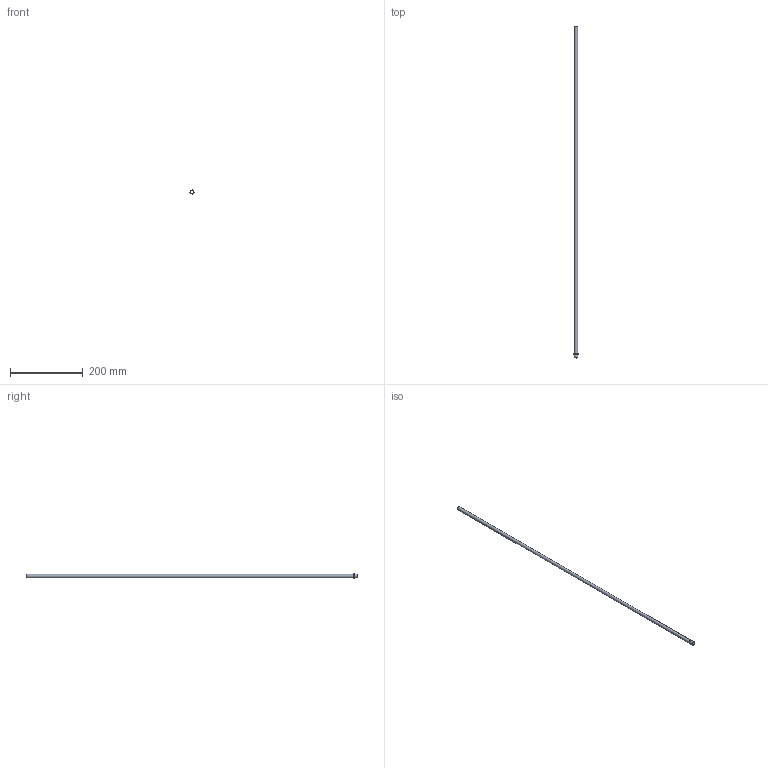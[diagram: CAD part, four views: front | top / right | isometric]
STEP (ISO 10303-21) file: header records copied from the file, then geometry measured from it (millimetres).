
FILE_DESCRIPTION(/* description */ (''),/* implementation_level */ '2;1');
FILE_NAME(/* name */ 'C:/Users/drich/Desktop/HF375T-36 v1.step',/* time_stamp */ '2019-12-30T13:34:33-06:00',/* author */ (''),/* organization */ (''),/* preprocessor_version */ 'ST-DEVELOPER v18',/* originating_system */ 'Autodesk Translation Framework v8.12.0.6',/* authorisation */ '');
FILE_SCHEMA (('AUTOMOTIVE_DESIGN { 1 0 10303 214 3 1 1 }'));
Length unit declared in the file: inch
Products named in the file (1): HF375T-36
Bounding box: 11.15 x 914.4 x 11.15 mm (x, y, z)
Volume: 8471.7 mm3; surface area: 51565.1 mm2
Topology: 1 solids, 1 shells, 12 faces, 30 edges, 22 vertices
Faces by surface type: plane 4, cylinder 4, torus 3, cone 1
Full cylindrical faces by diameter (mm): 8.636 x1, 9.271 x1, 10.978 x1, 11.151 x1
Entity records: 426 total; most frequent: DIRECTION 81, CARTESIAN_POINT 65, ORIENTED_EDGE 60, AXIS2_PLACEMENT_3D 38, EDGE_CURVE 30, CIRCLE 25, VERTEX_POINT 22, EDGE_LOOP 16
